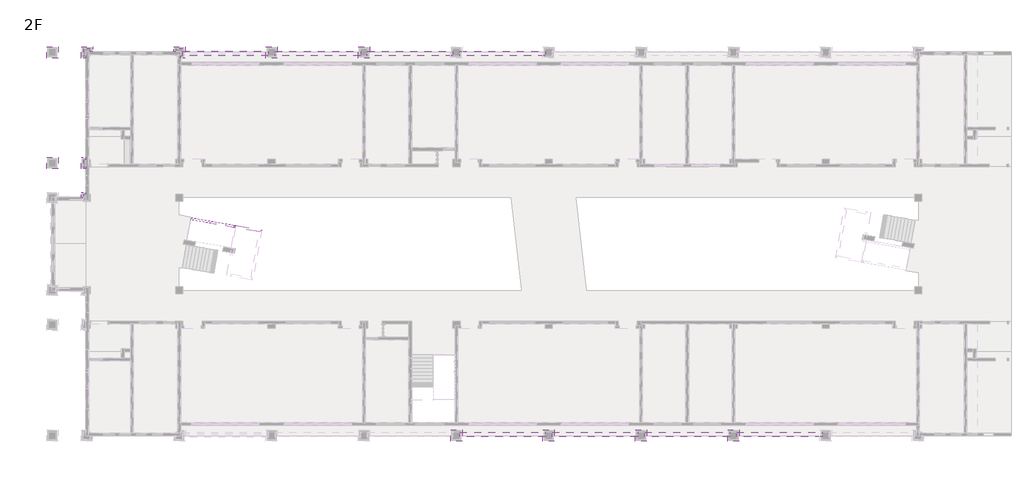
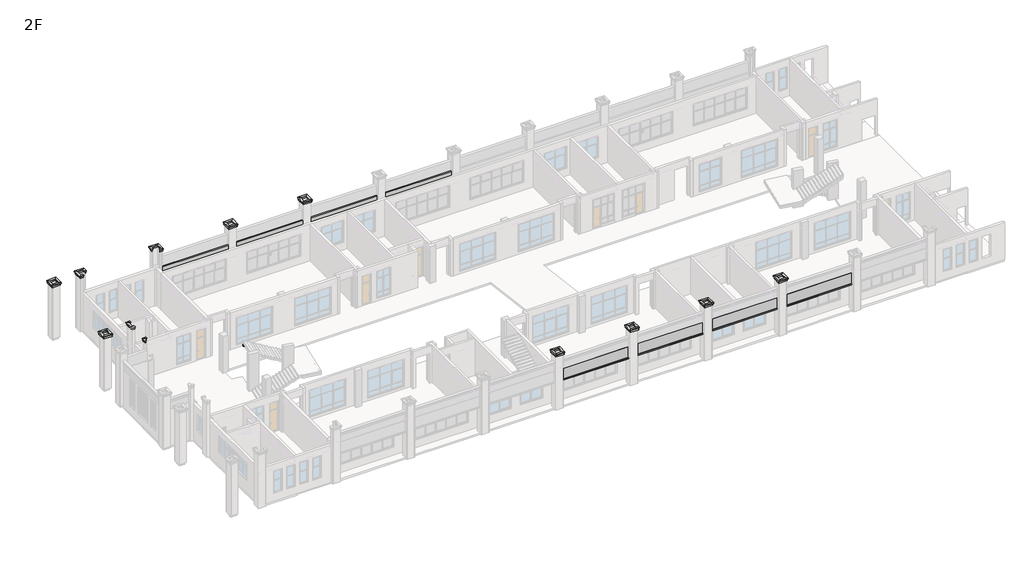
# One storey, part 14 of 16: 20 proxies, 2 members.
"""IFC4 building model written with IfcOpenShell, lengths in millimetres."""

from ifc_helpers import new_model, si_unit, origin, place, context, project, spatial, faceted_brep, transform, mapped, element, save
from components import generic_models_fbc45798, generic_models_00445dfb

model = new_model("IFC4")

# Units and contexts
model_context = context("Model", 3, world=origin())
ifc_project = project(units=[si_unit("LENGTHUNIT", "METRE", prefix="MILLI")], contexts=[model_context])

# Site, building, storey
site = spatial("IfcSite", under=ifc_project)
building = spatial("IfcBuilding", under=site)
storey = spatial("IfcBuildingStorey", under=building, Name="2F", Elevation=4200.0)

# Proxies
placement = place(None, origin())
generic_models_shape = generic_models_fbc45798(model_context)
element("IfcBuildingElementProxy", 1, Name="走廊板 : h=300mm", ObjectType="走廊板 : h=300mm", at=placement, inside=storey, context=model_context, shape_type="MappedRepresentation", body=[
    mapped(generic_models_shape, transform((35300.0, 150.0, 8400.0), x_axis=(1.0, 0.0, 0.0), y_axis=(0.0, 1.0, 0.0), z_axis=(0.0, 0.0, 1.0))),
])
element("IfcBuildingElementProxy", 2, Name="走廊板 : h=300mm", ObjectType="走廊板 : h=300mm", at=placement, inside=storey, context=model_context, shape_type="MappedRepresentation", body=[
    mapped(generic_models_shape, transform((43300.0, 150.0, 8400.0), x_axis=(1.0, 0.0, 0.0), y_axis=(0.0, 1.0, 0.0), z_axis=(0.0, 0.0, 1.0))),
])
element("IfcBuildingElementProxy", 3, Name="走廊板 : h=300mm", ObjectType="走廊板 : h=300mm", at=placement, inside=storey, context=model_context, shape_type="MappedRepresentation", body=[
    mapped(generic_models_shape, transform((51300.0, 150.0, 8400.0), x_axis=(1.0, 0.0, 0.0), y_axis=(0.0, 1.0, 0.0), z_axis=(0.0, 0.0, 1.0))),
])
element("IfcBuildingElementProxy", 4, Name="走廊板 : h=300mm", ObjectType="走廊板 : h=300mm", at=placement, inside=storey, context=model_context, shape_type="MappedRepresentation", body=[
    mapped(generic_models_shape, transform((59300.0, 150.0, 8400.0), x_axis=(1.0, 0.0, 0.0), y_axis=(0.0, 1.0, 0.0), z_axis=(0.0, 0.0, 1.0))),
])
generic_models_2_shape = generic_models_00445dfb(model_context)
element("IfcBuildingElementProxy", 5, Name="走廊板 : h=300mm", ObjectType="走廊板 : h=300mm", at=placement, inside=storey, context=model_context, shape_type="MappedRepresentation", body=[
    mapped(generic_models_2_shape, transform((11300.0, 33050.0, 8400.0), x_axis=(1.0, 0.0, 0.0), y_axis=(0.0, 1.0, 0.0), z_axis=(0.0, 0.0, 1.0))),
])
element("IfcBuildingElementProxy", 6, Name="走廊板 : h=300mm", ObjectType="走廊板 : h=300mm", at=placement, inside=storey, context=model_context, shape_type="MappedRepresentation", body=[
    mapped(generic_models_2_shape, transform((19300.0, 33050.0, 8400.0), x_axis=(1.0, 0.0, 0.0), y_axis=(0.0, 1.0, 0.0), z_axis=(0.0, 0.0, 1.0))),
])
element("IfcBuildingElementProxy", 7, Name="走廊板 : h=300mm", ObjectType="走廊板 : h=300mm", at=placement, inside=storey, context=model_context, shape_type="MappedRepresentation", body=[
    mapped(generic_models_2_shape, transform((27300.0, 33050.0, 8400.0), x_axis=(1.0, 0.0, 0.0), y_axis=(0.0, 1.0, 0.0), z_axis=(0.0, 0.0, 1.0))),
])
element("IfcBuildingElementProxy", 8, Name="走廊板 : h=300mm", ObjectType="走廊板 : h=300mm", at=placement, inside=storey, context=model_context, shape_type="MappedRepresentation", body=[
    mapped(generic_models_2_shape, transform((35300.0, 33050.0, 8400.0), x_axis=(1.0, 0.0, 0.0), y_axis=(0.0, 1.0, 0.0), z_axis=(0.0, 0.0, 1.0))),
])
element("IfcBuildingElementProxy", 9, Name="QS2", ObjectType="QS2", at=placement, inside=storey, context=model_context, shape_type="Brep", body=[
    faceted_brep([(-450.0, 32750.0, 10300.0), (-400.0, 32800.0, 10300.0), (-400.0, 32800.0, 10550.0), (-300.0, 32900.0, 10550.0), (-300.0, 32900.0, 10600.0), (-500.0, 32700.0, 10600.0), (-500.0, 32700.0, 10500.0), (-450.0, 32750.0, 10500.0), (-450.0, 33650.0, 10300.0), (-450.0, 33650.0, 10500.0), (-500.0, 33700.0, 10500.0), (-500.0, 33700.0, 10600.0), (-300.0, 33500.0, 10600.0), (-300.0, 33500.0, 10550.0), (-400.0, 33600.0, 10550.0), (-400.0, 33600.0, 10300.0)], [[[0, 1, 2, 3, 4, 5, 6, 7]], [[8, 9, 10, 11, 12, 13, 14, 15]], [[1, 0, 8, 15]], [[2, 1, 15, 14]], [[3, 2, 14, 13]], [[4, 3, 13, 12]], [[5, 4, 12, 11]], [[6, 5, 11, 10]], [[7, 6, 10, 9]], [[0, 7, 9, 8]]]),
    faceted_brep([(-450.0, 33650.0, 10300.0), (-400.0, 33600.0, 10300.0), (-400.0, 33600.0, 10550.0), (-300.0, 33500.0, 10550.0), (-300.0, 33500.0, 10600.0), (-500.0, 33700.0, 10600.0), (-500.0, 33700.0, 10500.0), (-450.0, 33650.0, 10500.0), (450.0, 33650.0, 10300.0), (450.0, 33650.0, 10500.0), (500.0, 33700.0, 10500.0), (500.0, 33700.0, 10600.0), (300.0, 33500.0, 10600.0), (300.0, 33500.0, 10550.0), (400.0, 33600.0, 10550.0), (400.0, 33600.0, 10300.0)], [[[0, 1, 2, 3, 4, 5, 6, 7]], [[8, 9, 10, 11, 12, 13, 14, 15]], [[1, 0, 8, 15]], [[2, 1, 15, 14]], [[3, 2, 14, 13]], [[4, 3, 13, 12]], [[5, 4, 12, 11]], [[6, 5, 11, 10]], [[7, 6, 10, 9]], [[0, 7, 9, 8]]]),
    faceted_brep([(450.0, 33650.0, 10300.0), (400.0, 33600.0, 10300.0), (400.0, 33600.0, 10550.0), (300.0, 33500.0, 10550.0), (300.0, 33500.0, 10600.0), (500.0, 33700.0, 10600.0), (500.0, 33700.0, 10500.0), (450.0, 33650.0, 10500.0), (450.0, 32750.0, 10300.0), (450.0, 32750.0, 10500.0), (500.0, 32700.0, 10500.0), (500.0, 32700.0, 10600.0), (300.0, 32900.0, 10600.0), (300.0, 32900.0, 10550.0), (400.0, 32800.0, 10550.0), (400.0, 32800.0, 10300.0)], [[[0, 1, 2, 3, 4, 5, 6, 7]], [[8, 9, 10, 11, 12, 13, 14, 15]], [[1, 0, 8, 15]], [[2, 1, 15, 14]], [[3, 2, 14, 13]], [[4, 3, 13, 12]], [[5, 4, 12, 11]], [[6, 5, 11, 10]], [[7, 6, 10, 9]], [[0, 7, 9, 8]]]),
    faceted_brep([(450.0, 32750.0, 10300.0), (400.0, 32800.0, 10300.0), (400.0, 32800.0, 10550.0), (300.0, 32900.0, 10550.0), (300.0, 32900.0, 10600.0), (500.0, 32700.0, 10600.0), (500.0, 32700.0, 10500.0), (450.0, 32750.0, 10500.0), (-450.0, 32750.0, 10300.0), (-450.0, 32750.0, 10500.0), (-500.0, 32700.0, 10500.0), (-500.0, 32700.0, 10600.0), (-300.0, 32900.0, 10600.0), (-300.0, 32900.0, 10550.0), (-400.0, 32800.0, 10550.0), (-400.0, 32800.0, 10300.0)], [[[0, 1, 2, 3, 4, 5, 6, 7]], [[8, 9, 10, 11, 12, 13, 14, 15]], [[1, 0, 8, 15]], [[2, 1, 15, 14]], [[3, 2, 14, 13]], [[4, 3, 13, 12]], [[5, 4, 12, 11]], [[6, 5, 11, 10]], [[7, 6, 10, 9]], [[0, 7, 9, 8]]]),
])
element("IfcBuildingElementProxy", 10, Name="QS2", ObjectType="QS2", at=placement, inside=storey, context=model_context, shape_type="Brep", body=[
    faceted_brep([(-450.0, 23150.0, 10300.0), (-400.0, 23200.0, 10300.0), (-400.0, 23200.0, 10550.0), (-300.0, 23300.0, 10550.0), (-300.0, 23300.0, 10600.0), (-500.0, 23100.0, 10600.0), (-500.0, 23100.0, 10500.0), (-450.0, 23150.0, 10500.0), (-450.0, 24050.0, 10300.0), (-450.0, 24050.0, 10500.0), (-500.0, 24100.0, 10500.0), (-500.0, 24100.0, 10600.0), (-300.0, 23900.0, 10600.0), (-300.0, 23900.0, 10550.0), (-400.0, 24000.0, 10550.0), (-400.0, 24000.0, 10300.0)], [[[0, 1, 2, 3, 4, 5, 6, 7]], [[8, 9, 10, 11, 12, 13, 14, 15]], [[1, 0, 8, 15]], [[2, 1, 15, 14]], [[3, 2, 14, 13]], [[4, 3, 13, 12]], [[5, 4, 12, 11]], [[6, 5, 11, 10]], [[7, 6, 10, 9]], [[0, 7, 9, 8]]]),
    faceted_brep([(-450.0, 24050.0, 10300.0), (-400.0, 24000.0, 10300.0), (-400.0, 24000.0, 10550.0), (-300.0, 23900.0, 10550.0), (-300.0, 23900.0, 10600.0), (-500.0, 24100.0, 10600.0), (-500.0, 24100.0, 10500.0), (-450.0, 24050.0, 10500.0), (450.0, 24050.0, 10300.0), (450.0, 24050.0, 10500.0), (500.0, 24100.0, 10500.0), (500.0, 24100.0, 10600.0), (300.0, 23900.0, 10600.0), (300.0, 23900.0, 10550.0), (400.0, 24000.0, 10550.0), (400.0, 24000.0, 10300.0)], [[[0, 1, 2, 3, 4, 5, 6, 7]], [[8, 9, 10, 11, 12, 13, 14, 15]], [[1, 0, 8, 15]], [[2, 1, 15, 14]], [[3, 2, 14, 13]], [[4, 3, 13, 12]], [[5, 4, 12, 11]], [[6, 5, 11, 10]], [[7, 6, 10, 9]], [[0, 7, 9, 8]]]),
    faceted_brep([(450.0, 24050.0, 10300.0), (400.0, 24000.0, 10300.0), (400.0, 24000.0, 10550.0), (300.0, 23900.0, 10550.0), (300.0, 23900.0, 10600.0), (500.0, 24100.0, 10600.0), (500.0, 24100.0, 10500.0), (450.0, 24050.0, 10500.0), (450.0, 23150.0, 10300.0), (450.0, 23150.0, 10500.0), (500.0, 23100.0, 10500.0), (500.0, 23100.0, 10600.0), (300.0, 23300.0, 10600.0), (300.0, 23300.0, 10550.0), (400.0, 23200.0, 10550.0), (400.0, 23200.0, 10300.0)], [[[0, 1, 2, 3, 4, 5, 6, 7]], [[8, 9, 10, 11, 12, 13, 14, 15]], [[1, 0, 8, 15]], [[2, 1, 15, 14]], [[3, 2, 14, 13]], [[4, 3, 13, 12]], [[5, 4, 12, 11]], [[6, 5, 11, 10]], [[7, 6, 10, 9]], [[0, 7, 9, 8]]]),
    faceted_brep([(450.0, 23150.0, 10300.0), (400.0, 23200.0, 10300.0), (400.0, 23200.0, 10550.0), (300.0, 23300.0, 10550.0), (300.0, 23300.0, 10600.0), (500.0, 23100.0, 10600.0), (500.0, 23100.0, 10500.0), (450.0, 23150.0, 10500.0), (-450.0, 23150.0, 10300.0), (-450.0, 23150.0, 10500.0), (-500.0, 23100.0, 10500.0), (-500.0, 23100.0, 10600.0), (-300.0, 23300.0, 10600.0), (-300.0, 23300.0, 10550.0), (-400.0, 23200.0, 10550.0), (-400.0, 23200.0, 10300.0)], [[[0, 1, 2, 3, 4, 5, 6, 7]], [[8, 9, 10, 11, 12, 13, 14, 15]], [[1, 0, 8, 15]], [[2, 1, 15, 14]], [[3, 2, 14, 13]], [[4, 3, 13, 12]], [[5, 4, 12, 11]], [[6, 5, 11, 10]], [[7, 6, 10, 9]], [[0, 7, 9, 8]]]),
])
element("IfcBuildingElementProxy", 11, Name="QS2", ObjectType="QS2", at=placement, inside=storey, context=model_context, shape_type="Brep", body=[
    faceted_brep([(3450.0, 33252.6954639, 10300.0), (3450.0, 33252.6954639, 10500.0), (3500.0, 33252.6954639, 10500.0), (3500.0, 33252.6954639, 10600.0), (3300.0, 33252.6954639, 10600.0), (3300.0, 33252.6954639, 10550.0), (3400.0, 33252.6954639, 10550.0), (3400.0, 33252.6954639, 10300.0), (3450.0, 33650.0, 10300.0), (3400.0, 33600.0, 10300.0), (3400.0, 33600.0, 10550.0), (3300.0, 33500.0, 10550.0), (3300.0, 33500.0, 10600.0), (3500.0, 33700.0, 10600.0), (3500.0, 33700.0, 10500.0), (3450.0, 33650.0, 10500.0)], [[[0, 1, 2, 3, 4, 5, 6, 7]], [[8, 9, 10, 11, 12, 13, 14, 15]], [[1, 0, 8, 15]], [[2, 1, 15, 14]], [[3, 2, 14, 13]], [[4, 3, 13, 12]], [[5, 4, 12, 11]], [[6, 5, 11, 10]], [[7, 6, 10, 9]], [[0, 7, 9, 8]]]),
    faceted_brep([(3450.0, 33650.0, 10300.0), (3450.0, 33650.0, 10500.0), (3500.0, 33700.0, 10500.0), (3500.0, 33700.0, 10600.0), (3300.0, 33500.0, 10600.0), (3300.0, 33500.0, 10550.0), (3400.0, 33600.0, 10550.0), (3400.0, 33600.0, 10300.0), (2550.0, 33650.0, 10300.0), (2600.0, 33600.0, 10300.0), (2600.0, 33600.0, 10550.0), (2700.0, 33500.0, 10550.0), (2700.0, 33500.0, 10600.0), (2500.0, 33700.0, 10600.0), (2500.0, 33700.0, 10500.0), (2550.0, 33650.0, 10500.0)], [[[0, 1, 2, 3, 4, 5, 6, 7]], [[8, 9, 10, 11, 12, 13, 14, 15]], [[1, 0, 8, 15]], [[2, 1, 15, 14]], [[3, 2, 14, 13]], [[4, 3, 13, 12]], [[5, 4, 12, 11]], [[6, 5, 11, 10]], [[7, 6, 10, 9]], [[0, 7, 9, 8]]]),
    faceted_brep([(2550.0, 33650.0, 10300.0), (2550.0, 33650.0, 10500.0), (2500.0, 33700.0, 10500.0), (2500.0, 33700.0, 10600.0), (2700.0, 33500.0, 10600.0), (2700.0, 33500.0, 10550.0), (2600.0, 33600.0, 10550.0), (2600.0, 33600.0, 10300.0), (2550.0, 32750.0, 10300.0), (2600.0, 32800.0, 10300.0), (2600.0, 32800.0, 10550.0), (2700.0, 32900.0, 10550.0), (2700.0, 32900.0, 10600.0), (2500.0, 32700.0, 10600.0), (2500.0, 32700.0, 10500.0), (2550.0, 32750.0, 10500.0)], [[[0, 1, 2, 3, 4, 5, 6, 7]], [[8, 9, 10, 11, 12, 13, 14, 15]], [[1, 0, 8, 15]], [[2, 1, 15, 14]], [[3, 2, 14, 13]], [[4, 3, 13, 12]], [[5, 4, 12, 11]], [[6, 5, 11, 10]], [[7, 6, 10, 9]], [[0, 7, 9, 8]]]),
    faceted_brep([(2550.0, 32750.0, 10300.0), (2550.0, 32750.0, 10500.0), (2500.0, 32700.0, 10500.0), (2500.0, 32700.0, 10600.0), (2700.0, 32900.0, 10600.0), (2700.0, 32900.0, 10550.0), (2600.0, 32800.0, 10550.0), (2600.0, 32800.0, 10300.0), (2897.0000002, 32750.0, 10300.0), (2897.0000002, 32800.0, 10300.0), (2897.0000002, 32800.0, 10550.0), (2897.0000002, 32900.0, 10550.0), (2897.0000002, 32900.0, 10600.0), (2897.0000002, 32700.0, 10600.0), (2897.0000002, 32700.0, 10500.0), (2897.0000002, 32750.0, 10500.0)], [[[0, 1, 2, 3, 4, 5, 6, 7]], [[8, 9, 10, 11, 12, 13, 14, 15]], [[1, 0, 8, 15]], [[2, 1, 15, 14]], [[3, 2, 14, 13]], [[4, 3, 13, 12]], [[5, 4, 12, 11]], [[6, 5, 11, 10]], [[7, 6, 10, 9]], [[0, 7, 9, 8]]]),
])
element("IfcBuildingElementProxy", 12, Name="QS2", ObjectType="QS2", at=placement, inside=storey, context=model_context, shape_type="Brep", body=[
    faceted_brep([(2897.0000002, 24050.0, 10300.0), (2897.0000002, 24050.0, 10500.0), (2897.0000002, 24100.0, 10500.0), (2897.0000002, 24100.0, 10600.0), (2897.0000002, 23900.0, 10600.0), (2897.0000002, 23900.0, 10550.0), (2897.0000002, 24000.0, 10550.0), (2897.0000002, 24000.0, 10300.0), (2550.0, 24050.0, 10300.0), (2600.0, 24000.0, 10300.0), (2600.0, 24000.0, 10550.0), (2700.0, 23900.0, 10550.0), (2700.0, 23900.0, 10600.0), (2500.0, 24100.0, 10600.0), (2500.0, 24100.0, 10500.0), (2550.0, 24050.0, 10500.0)], [[[0, 1, 2, 3, 4, 5, 6, 7]], [[8, 9, 10, 11, 12, 13, 14, 15]], [[1, 0, 8, 15]], [[2, 1, 15, 14]], [[3, 2, 14, 13]], [[4, 3, 13, 12]], [[5, 4, 12, 11]], [[6, 5, 11, 10]], [[7, 6, 10, 9]], [[0, 7, 9, 8]]]),
    faceted_brep([(2550.0, 24050.0, 10300.0), (2550.0, 24050.0, 10500.0), (2500.0, 24100.0, 10500.0), (2500.0, 24100.0, 10600.0), (2700.0, 23900.0, 10600.0), (2700.0, 23900.0, 10550.0), (2600.0, 24000.0, 10550.0), (2600.0, 24000.0, 10300.0), (2550.0, 23150.0, 10300.0), (2600.0, 23200.0, 10300.0), (2600.0, 23200.0, 10550.0), (2700.0, 23300.0, 10550.0), (2700.0, 23300.0, 10600.0), (2500.0, 23100.0, 10600.0), (2500.0, 23100.0, 10500.0), (2550.0, 23150.0, 10500.0)], [[[0, 1, 2, 3, 4, 5, 6, 7]], [[8, 9, 10, 11, 12, 13, 14, 15]], [[1, 0, 8, 15]], [[2, 1, 15, 14]], [[3, 2, 14, 13]], [[4, 3, 13, 12]], [[5, 4, 12, 11]], [[6, 5, 11, 10]], [[7, 6, 10, 9]], [[0, 7, 9, 8]]]),
    faceted_brep([(2550.0, 23150.0, 10300.0), (2550.0, 23150.0, 10500.0), (2500.0, 23100.0, 10500.0), (2500.0, 23100.0, 10600.0), (2700.0, 23300.0, 10600.0), (2700.0, 23300.0, 10550.0), (2600.0, 23200.0, 10550.0), (2600.0, 23200.0, 10300.0), (2897.0000002, 23150.0, 10300.0), (2897.0000002, 23200.0, 10300.0), (2897.0000002, 23200.0, 10550.0), (2897.0000002, 23300.0, 10550.0), (2897.0000002, 23300.0, 10600.0), (2897.0000002, 23100.0, 10600.0), (2897.0000002, 23100.0, 10500.0), (2897.0000002, 23150.0, 10500.0)], [[[0, 1, 2, 3, 4, 5, 6, 7]], [[8, 9, 10, 11, 12, 13, 14, 15]], [[1, 0, 8, 15]], [[2, 1, 15, 14]], [[3, 2, 14, 13]], [[4, 3, 13, 12]], [[5, 4, 12, 11]], [[6, 5, 11, 10]], [[7, 6, 10, 9]], [[0, 7, 9, 8]]]),
])
element("IfcBuildingElementProxy", 13, Name="QS2", ObjectType="QS2", at=placement, inside=storey, context=model_context, shape_type="Brep", body=[
    faceted_brep([(2897.0000002, 21050.0, 10300.0), (2897.0000002, 21050.0, 10500.0), (2897.0000002, 21100.0, 10500.0), (2897.0000002, 21100.0, 10600.0), (2897.0000002, 20900.0, 10600.0), (2897.0000002, 20900.0, 10550.0), (2897.0000002, 21000.0, 10550.0), (2897.0000002, 21000.0, 10300.0), (2550.0, 21050.0, 10300.0), (2600.0, 21000.0, 10300.0), (2600.0, 21000.0, 10550.0), (2700.0, 20900.0, 10550.0), (2700.0, 20900.0, 10600.0), (2500.0, 21100.0, 10600.0), (2500.0, 21100.0, 10500.0), (2550.0, 21050.0, 10500.0)], [[[0, 1, 2, 3, 4, 5, 6, 7]], [[8, 9, 10, 11, 12, 13, 14, 15]], [[1, 0, 8, 15]], [[2, 1, 15, 14]], [[3, 2, 14, 13]], [[4, 3, 13, 12]], [[5, 4, 12, 11]], [[6, 5, 11, 10]], [[7, 6, 10, 9]], [[0, 7, 9, 8]]]),
    faceted_brep([(2550.0, 21050.0, 10300.0), (2550.0, 21050.0, 10500.0), (2500.0, 21100.0, 10500.0), (2500.0, 21100.0, 10600.0), (2700.0, 20900.0, 10600.0), (2700.0, 20900.0, 10550.0), (2600.0, 21000.0, 10550.0), (2600.0, 21000.0, 10300.0), (2550.0, 20633.3045364, 10300.0), (2600.0, 20633.3045364, 10300.0), (2600.0, 20633.3045364, 10550.0), (2700.0, 20633.3045364, 10550.0), (2700.0, 20633.3045364, 10600.0), (2500.0, 20633.3045364, 10600.0), (2500.0, 20633.3045364, 10500.0), (2550.0, 20633.3045364, 10500.0)], [[[0, 1, 2, 3, 4, 5, 6, 7]], [[8, 9, 10, 11, 12, 13, 14, 15]], [[1, 0, 8, 15]], [[2, 1, 15, 14]], [[3, 2, 14, 13]], [[4, 3, 13, 12]], [[5, 4, 12, 11]], [[6, 5, 11, 10]], [[7, 6, 10, 9]], [[0, 7, 9, 8]]]),
])
element("IfcBuildingElementProxy", 14, Name="QS2", ObjectType="QS2", at=placement, inside=storey, context=model_context, shape_type="Brep", body=[
    faceted_brep([(10550.0, 33232.6954639, 10300.0), (10600.0, 33232.6954639, 10300.0), (10600.0, 33232.6954639, 10550.0), (10700.0, 33232.6954639, 10550.0), (10700.0, 33232.6954639, 10600.0), (10500.0, 33232.6954639, 10600.0), (10500.0, 33232.6954639, 10500.0), (10550.0, 33232.6954639, 10500.0), (10550.0, 33650.0, 10300.0), (10550.0, 33650.0, 10500.0), (10500.0, 33700.0, 10500.0), (10500.0, 33700.0, 10600.0), (10700.0, 33500.0, 10600.0), (10700.0, 33500.0, 10550.0), (10600.0, 33600.0, 10550.0), (10600.0, 33600.0, 10300.0)], [[[0, 1, 2, 3, 4, 5, 6, 7]], [[8, 9, 10, 11, 12, 13, 14, 15]], [[1, 0, 8, 15]], [[2, 1, 15, 14]], [[3, 2, 14, 13]], [[4, 3, 13, 12]], [[5, 4, 12, 11]], [[6, 5, 11, 10]], [[7, 6, 10, 9]], [[0, 7, 9, 8]]]),
    faceted_brep([(10550.0, 33650.0, 10300.0), (10600.0, 33600.0, 10300.0), (10600.0, 33600.0, 10550.0), (10700.0, 33500.0, 10550.0), (10700.0, 33500.0, 10600.0), (10500.0, 33700.0, 10600.0), (10500.0, 33700.0, 10500.0), (10550.0, 33650.0, 10500.0), (11450.0, 33650.0, 10300.0), (11450.0, 33650.0, 10500.0), (11500.0, 33700.0, 10500.0), (11500.0, 33700.0, 10600.0), (11300.0, 33500.0, 10600.0), (11300.0, 33500.0, 10550.0), (11400.0, 33600.0, 10550.0), (11400.0, 33600.0, 10300.0)], [[[0, 1, 2, 3, 4, 5, 6, 7]], [[8, 9, 10, 11, 12, 13, 14, 15]], [[1, 0, 8, 15]], [[2, 1, 15, 14]], [[3, 2, 14, 13]], [[4, 3, 13, 12]], [[5, 4, 12, 11]], [[6, 5, 11, 10]], [[7, 6, 10, 9]], [[0, 7, 9, 8]]]),
    faceted_brep([(11450.0, 33650.0, 10300.0), (11400.0, 33600.0, 10300.0), (11400.0, 33600.0, 10550.0), (11300.0, 33500.0, 10550.0), (11300.0, 33500.0, 10600.0), (11500.0, 33700.0, 10600.0), (11500.0, 33700.0, 10500.0), (11450.0, 33650.0, 10500.0), (11450.0, 32750.0, 10300.0), (11450.0, 32750.0, 10500.0), (11500.0, 32700.0, 10500.0), (11500.0, 32700.0, 10600.0), (11300.0, 32900.0, 10600.0), (11300.0, 32900.0, 10550.0), (11400.0, 32800.0, 10550.0), (11400.0, 32800.0, 10300.0)], [[[0, 1, 2, 3, 4, 5, 6, 7]], [[8, 9, 10, 11, 12, 13, 14, 15]], [[1, 0, 8, 15]], [[2, 1, 15, 14]], [[3, 2, 14, 13]], [[4, 3, 13, 12]], [[5, 4, 12, 11]], [[6, 5, 11, 10]], [[7, 6, 10, 9]], [[0, 7, 9, 8]]]),
    faceted_brep([(11450.0, 32750.0, 10300.0), (11400.0, 32800.0, 10300.0), (11400.0, 32800.0, 10550.0), (11300.0, 32900.0, 10550.0), (11300.0, 32900.0, 10600.0), (11500.0, 32700.0, 10600.0), (11500.0, 32700.0, 10500.0), (11450.0, 32750.0, 10500.0), (11133.0, 32750.0, 10300.0), (11133.0, 32750.0, 10500.0), (11133.0, 32700.0, 10500.0), (11133.0, 32700.0, 10600.0), (11133.0, 32900.0, 10600.0), (11133.0, 32900.0, 10550.0), (11133.0, 32800.0, 10550.0), (11133.0, 32800.0, 10300.0)], [[[0, 1, 2, 3, 4, 5, 6, 7]], [[8, 9, 10, 11, 12, 13, 14, 15]], [[1, 0, 8, 15]], [[2, 1, 15, 14]], [[3, 2, 14, 13]], [[4, 3, 13, 12]], [[5, 4, 12, 11]], [[6, 5, 11, 10]], [[7, 6, 10, 9]], [[0, 7, 9, 8]]]),
])
element("IfcBuildingElementProxy", 15, Name="QS2", ObjectType="QS2", at=placement, inside=storey, context=model_context, shape_type="Brep", body=[
    faceted_brep([(18550.0, 32749.640208, 10300.0), (18600.0, 32799.640208, 10300.0), (18600.0, 32799.640208, 10550.0), (18700.0, 32899.640208, 10550.0), (18700.0, 32899.640208, 10600.0), (18500.0, 32699.640208, 10600.0), (18500.0, 32699.640208, 10500.0), (18550.0, 32749.640208, 10500.0), (18550.0, 33650.0, 10300.0), (18550.0, 33650.0, 10500.0), (18500.0, 33700.0, 10500.0), (18500.0, 33700.0, 10600.0), (18700.0, 33500.0, 10600.0), (18700.0, 33500.0, 10550.0), (18600.0, 33600.0, 10550.0), (18600.0, 33600.0, 10300.0)], [[[0, 1, 2, 3, 4, 5, 6, 7]], [[8, 9, 10, 11, 12, 13, 14, 15]], [[1, 0, 8, 15]], [[2, 1, 15, 14]], [[3, 2, 14, 13]], [[4, 3, 13, 12]], [[5, 4, 12, 11]], [[6, 5, 11, 10]], [[7, 6, 10, 9]], [[0, 7, 9, 8]]]),
    faceted_brep([(18550.0, 33650.0, 10300.0), (18600.0, 33600.0, 10300.0), (18600.0, 33600.0, 10550.0), (18700.0, 33500.0, 10550.0), (18700.0, 33500.0, 10600.0), (18500.0, 33700.0, 10600.0), (18500.0, 33700.0, 10500.0), (18550.0, 33650.0, 10500.0), (19450.0, 33650.0, 10300.0), (19450.0, 33650.0, 10500.0), (19500.0, 33700.0, 10500.0), (19500.0, 33700.0, 10600.0), (19300.0, 33500.0, 10600.0), (19300.0, 33500.0, 10550.0), (19400.0, 33600.0, 10550.0), (19400.0, 33600.0, 10300.0)], [[[0, 1, 2, 3, 4, 5, 6, 7]], [[8, 9, 10, 11, 12, 13, 14, 15]], [[1, 0, 8, 15]], [[2, 1, 15, 14]], [[3, 2, 14, 13]], [[4, 3, 13, 12]], [[5, 4, 12, 11]], [[6, 5, 11, 10]], [[7, 6, 10, 9]], [[0, 7, 9, 8]]]),
    faceted_brep([(19450.0, 33650.0, 10300.0), (19400.0, 33600.0, 10300.0), (19400.0, 33600.0, 10550.0), (19300.0, 33500.0, 10550.0), (19300.0, 33500.0, 10600.0), (19500.0, 33700.0, 10600.0), (19500.0, 33700.0, 10500.0), (19450.0, 33650.0, 10500.0), (19450.0, 32749.640208, 10300.0), (19450.0, 32749.640208, 10500.0), (19500.0, 32699.640208, 10500.0), (19500.0, 32699.640208, 10600.0), (19300.0, 32899.640208, 10600.0), (19300.0, 32899.640208, 10550.0), (19400.0, 32799.640208, 10550.0), (19400.0, 32799.640208, 10300.0)], [[[0, 1, 2, 3, 4, 5, 6, 7]], [[8, 9, 10, 11, 12, 13, 14, 15]], [[1, 0, 8, 15]], [[2, 1, 15, 14]], [[3, 2, 14, 13]], [[4, 3, 13, 12]], [[5, 4, 12, 11]], [[6, 5, 11, 10]], [[7, 6, 10, 9]], [[0, 7, 9, 8]]]),
    faceted_brep([(19450.0, 32749.640208, 10300.0), (19400.0, 32799.640208, 10300.0), (19400.0, 32799.640208, 10550.0), (19300.0, 32899.640208, 10550.0), (19300.0, 32899.640208, 10600.0), (19500.0, 32699.640208, 10600.0), (19500.0, 32699.640208, 10500.0), (19450.0, 32749.640208, 10500.0), (18550.0, 32749.640208, 10300.0), (18550.0, 32749.640208, 10500.0), (18500.0, 32699.640208, 10500.0), (18500.0, 32699.640208, 10600.0), (18700.0, 32899.640208, 10600.0), (18700.0, 32899.640208, 10550.0), (18600.0, 32799.640208, 10550.0), (18600.0, 32799.640208, 10300.0)], [[[0, 1, 2, 3, 4, 5, 6, 7]], [[8, 9, 10, 11, 12, 13, 14, 15]], [[1, 0, 8, 15]], [[2, 1, 15, 14]], [[3, 2, 14, 13]], [[4, 3, 13, 12]], [[5, 4, 12, 11]], [[6, 5, 11, 10]], [[7, 6, 10, 9]], [[0, 7, 9, 8]]]),
])
element("IfcBuildingElementProxy", 16, Name="QS2", ObjectType="QS2", at=placement, inside=storey, context=model_context, shape_type="Brep", body=[
    faceted_brep([(26550.0, 32749.640208, 10300.0), (26600.0, 32799.640208, 10300.0), (26600.0, 32799.640208, 10550.0), (26700.0, 32899.640208, 10550.0), (26700.0, 32899.640208, 10600.0), (26500.0, 32699.640208, 10600.0), (26500.0, 32699.640208, 10500.0), (26550.0, 32749.640208, 10500.0), (26550.0, 33650.0, 10300.0), (26550.0, 33650.0, 10500.0), (26500.0, 33700.0, 10500.0), (26500.0, 33700.0, 10600.0), (26700.0, 33500.0, 10600.0), (26700.0, 33500.0, 10550.0), (26600.0, 33600.0, 10550.0), (26600.0, 33600.0, 10300.0)], [[[0, 1, 2, 3, 4, 5, 6, 7]], [[8, 9, 10, 11, 12, 13, 14, 15]], [[1, 0, 8, 15]], [[2, 1, 15, 14]], [[3, 2, 14, 13]], [[4, 3, 13, 12]], [[5, 4, 12, 11]], [[6, 5, 11, 10]], [[7, 6, 10, 9]], [[0, 7, 9, 8]]]),
    faceted_brep([(26550.0, 33650.0, 10300.0), (26600.0, 33600.0, 10300.0), (26600.0, 33600.0, 10550.0), (26700.0, 33500.0, 10550.0), (26700.0, 33500.0, 10600.0), (26500.0, 33700.0, 10600.0), (26500.0, 33700.0, 10500.0), (26550.0, 33650.0, 10500.0), (27450.0, 33650.0, 10300.0), (27450.0, 33650.0, 10500.0), (27500.0, 33700.0, 10500.0), (27500.0, 33700.0, 10600.0), (27300.0, 33500.0, 10600.0), (27300.0, 33500.0, 10550.0), (27400.0, 33600.0, 10550.0), (27400.0, 33600.0, 10300.0)], [[[0, 1, 2, 3, 4, 5, 6, 7]], [[8, 9, 10, 11, 12, 13, 14, 15]], [[1, 0, 8, 15]], [[2, 1, 15, 14]], [[3, 2, 14, 13]], [[4, 3, 13, 12]], [[5, 4, 12, 11]], [[6, 5, 11, 10]], [[7, 6, 10, 9]], [[0, 7, 9, 8]]]),
    faceted_brep([(27450.0, 33650.0, 10300.0), (27400.0, 33600.0, 10300.0), (27400.0, 33600.0, 10550.0), (27300.0, 33500.0, 10550.0), (27300.0, 33500.0, 10600.0), (27500.0, 33700.0, 10600.0), (27500.0, 33700.0, 10500.0), (27450.0, 33650.0, 10500.0), (27450.0, 32749.640208, 10300.0), (27450.0, 32749.640208, 10500.0), (27500.0, 32699.640208, 10500.0), (27500.0, 32699.640208, 10600.0), (27300.0, 32899.640208, 10600.0), (27300.0, 32899.640208, 10550.0), (27400.0, 32799.640208, 10550.0), (27400.0, 32799.640208, 10300.0)], [[[0, 1, 2, 3, 4, 5, 6, 7]], [[8, 9, 10, 11, 12, 13, 14, 15]], [[1, 0, 8, 15]], [[2, 1, 15, 14]], [[3, 2, 14, 13]], [[4, 3, 13, 12]], [[5, 4, 12, 11]], [[6, 5, 11, 10]], [[7, 6, 10, 9]], [[0, 7, 9, 8]]]),
    faceted_brep([(27450.0, 32749.640208, 10300.0), (27400.0, 32799.640208, 10300.0), (27400.0, 32799.640208, 10550.0), (27300.0, 32899.640208, 10550.0), (27300.0, 32899.640208, 10600.0), (27500.0, 32699.640208, 10600.0), (27500.0, 32699.640208, 10500.0), (27450.0, 32749.640208, 10500.0), (26550.0, 32749.640208, 10300.0), (26550.0, 32749.640208, 10500.0), (26500.0, 32699.640208, 10500.0), (26500.0, 32699.640208, 10600.0), (26700.0, 32899.640208, 10600.0), (26700.0, 32899.640208, 10550.0), (26600.0, 32799.640208, 10550.0), (26600.0, 32799.640208, 10300.0)], [[[0, 1, 2, 3, 4, 5, 6, 7]], [[8, 9, 10, 11, 12, 13, 14, 15]], [[1, 0, 8, 15]], [[2, 1, 15, 14]], [[3, 2, 14, 13]], [[4, 3, 13, 12]], [[5, 4, 12, 11]], [[6, 5, 11, 10]], [[7, 6, 10, 9]], [[0, 7, 9, 8]]]),
])
element("IfcBuildingElementProxy", 17, Name="QS2", ObjectType="QS2", at=placement, inside=storey, context=model_context, shape_type="Brep", body=[
    faceted_brep([(34550.0, 450.359792, 10300.0), (34550.0, 450.359792, 10500.0), (34500.0, 500.359792, 10500.0), (34500.0, 500.359792, 10600.0), (34700.0, 300.359792, 10600.0), (34700.0, 300.359792, 10550.0), (34600.0, 400.359792, 10550.0), (34600.0, 400.359792, 10300.0), (34550.0, -450.0, 10300.0), (34600.0, -400.0, 10300.0), (34600.0, -400.0, 10550.0), (34700.0, -300.0, 10550.0), (34700.0, -300.0, 10600.0), (34500.0, -500.0, 10600.0), (34500.0, -500.0, 10500.0), (34550.0, -450.0, 10500.0)], [[[0, 1, 2, 3, 4, 5, 6, 7]], [[8, 9, 10, 11, 12, 13, 14, 15]], [[0, 7, 9, 8]], [[7, 6, 10, 9]], [[6, 5, 11, 10]], [[5, 4, 12, 11]], [[4, 3, 13, 12]], [[3, 2, 14, 13]], [[2, 1, 15, 14]], [[1, 0, 8, 15]]]),
    faceted_brep([(34550.0, -450.0, 10300.0), (34550.0, -450.0, 10500.0), (34500.0, -500.0, 10500.0), (34500.0, -500.0, 10600.0), (34700.0, -300.0, 10600.0), (34700.0, -300.0, 10550.0), (34600.0, -400.0, 10550.0), (34600.0, -400.0, 10300.0), (35450.0, -450.0, 10300.0), (35400.0, -400.0, 10300.0), (35400.0, -400.0, 10550.0), (35300.0, -300.0, 10550.0), (35300.0, -300.0, 10600.0), (35500.0, -500.0, 10600.0), (35500.0, -500.0, 10500.0), (35450.0, -450.0, 10500.0)], [[[0, 1, 2, 3, 4, 5, 6, 7]], [[8, 9, 10, 11, 12, 13, 14, 15]], [[0, 7, 9, 8]], [[7, 6, 10, 9]], [[6, 5, 11, 10]], [[5, 4, 12, 11]], [[4, 3, 13, 12]], [[3, 2, 14, 13]], [[2, 1, 15, 14]], [[1, 0, 8, 15]]]),
    faceted_brep([(35450.0, -450.0, 10300.0), (35450.0, -450.0, 10500.0), (35500.0, -500.0, 10500.0), (35500.0, -500.0, 10600.0), (35300.0, -300.0, 10600.0), (35300.0, -300.0, 10550.0), (35400.0, -400.0, 10550.0), (35400.0, -400.0, 10300.0), (35450.0, 450.359792, 10300.0), (35400.0, 400.359792, 10300.0), (35400.0, 400.359792, 10550.0), (35300.0, 300.359792, 10550.0), (35300.0, 300.359792, 10600.0), (35500.0, 500.359792, 10600.0), (35500.0, 500.359792, 10500.0), (35450.0, 450.359792, 10500.0)], [[[0, 1, 2, 3, 4, 5, 6, 7]], [[8, 9, 10, 11, 12, 13, 14, 15]], [[0, 7, 9, 8]], [[7, 6, 10, 9]], [[6, 5, 11, 10]], [[5, 4, 12, 11]], [[4, 3, 13, 12]], [[3, 2, 14, 13]], [[2, 1, 15, 14]], [[1, 0, 8, 15]]]),
    faceted_brep([(35450.0, 450.359792, 10300.0), (35450.0, 450.359792, 10500.0), (35500.0, 500.359792, 10500.0), (35500.0, 500.359792, 10600.0), (35300.0, 300.359792, 10600.0), (35300.0, 300.359792, 10550.0), (35400.0, 400.359792, 10550.0), (35400.0, 400.359792, 10300.0), (34550.0, 450.359792, 10300.0), (34600.0, 400.359792, 10300.0), (34600.0, 400.359792, 10550.0), (34700.0, 300.359792, 10550.0), (34700.0, 300.359792, 10600.0), (34500.0, 500.359792, 10600.0), (34500.0, 500.359792, 10500.0), (34550.0, 450.359792, 10500.0)], [[[0, 1, 2, 3, 4, 5, 6, 7]], [[8, 9, 10, 11, 12, 13, 14, 15]], [[0, 7, 9, 8]], [[7, 6, 10, 9]], [[6, 5, 11, 10]], [[5, 4, 12, 11]], [[4, 3, 13, 12]], [[3, 2, 14, 13]], [[2, 1, 15, 14]], [[1, 0, 8, 15]]]),
])
element("IfcBuildingElementProxy", 18, Name="QS2", ObjectType="QS2", at=placement, inside=storey, context=model_context, shape_type="Brep", body=[
    faceted_brep([(42550.0, 450.359792, 10300.0), (42550.0, 450.359792, 10500.0), (42500.0, 500.359792, 10500.0), (42500.0, 500.359792, 10600.0), (42700.0, 300.359792, 10600.0), (42700.0, 300.359792, 10550.0), (42600.0, 400.359792, 10550.0), (42600.0, 400.359792, 10300.0), (42550.0, -450.0, 10300.0), (42600.0, -400.0, 10300.0), (42600.0, -400.0, 10550.0), (42700.0, -300.0, 10550.0), (42700.0, -300.0, 10600.0), (42500.0, -500.0, 10600.0), (42500.0, -500.0, 10500.0), (42550.0, -450.0, 10500.0)], [[[0, 1, 2, 3, 4, 5, 6, 7]], [[8, 9, 10, 11, 12, 13, 14, 15]], [[0, 7, 9, 8]], [[7, 6, 10, 9]], [[6, 5, 11, 10]], [[5, 4, 12, 11]], [[4, 3, 13, 12]], [[3, 2, 14, 13]], [[2, 1, 15, 14]], [[1, 0, 8, 15]]]),
    faceted_brep([(42550.0, -450.0, 10300.0), (42550.0, -450.0, 10500.0), (42500.0, -500.0, 10500.0), (42500.0, -500.0, 10600.0), (42700.0, -300.0, 10600.0), (42700.0, -300.0, 10550.0), (42600.0, -400.0, 10550.0), (42600.0, -400.0, 10300.0), (43450.0, -450.0, 10300.0), (43400.0, -400.0, 10300.0), (43400.0, -400.0, 10550.0), (43300.0, -300.0, 10550.0), (43300.0, -300.0, 10600.0), (43500.0, -500.0, 10600.0), (43500.0, -500.0, 10500.0), (43450.0, -450.0, 10500.0)], [[[0, 1, 2, 3, 4, 5, 6, 7]], [[8, 9, 10, 11, 12, 13, 14, 15]], [[0, 7, 9, 8]], [[7, 6, 10, 9]], [[6, 5, 11, 10]], [[5, 4, 12, 11]], [[4, 3, 13, 12]], [[3, 2, 14, 13]], [[2, 1, 15, 14]], [[1, 0, 8, 15]]]),
    faceted_brep([(43450.0, -450.0, 10300.0), (43450.0, -450.0, 10500.0), (43500.0, -500.0, 10500.0), (43500.0, -500.0, 10600.0), (43300.0, -300.0, 10600.0), (43300.0, -300.0, 10550.0), (43400.0, -400.0, 10550.0), (43400.0, -400.0, 10300.0), (43450.0, 450.359792, 10300.0), (43400.0, 400.359792, 10300.0), (43400.0, 400.359792, 10550.0), (43300.0, 300.359792, 10550.0), (43300.0, 300.359792, 10600.0), (43500.0, 500.359792, 10600.0), (43500.0, 500.359792, 10500.0), (43450.0, 450.359792, 10500.0)], [[[0, 1, 2, 3, 4, 5, 6, 7]], [[8, 9, 10, 11, 12, 13, 14, 15]], [[0, 7, 9, 8]], [[7, 6, 10, 9]], [[6, 5, 11, 10]], [[5, 4, 12, 11]], [[4, 3, 13, 12]], [[3, 2, 14, 13]], [[2, 1, 15, 14]], [[1, 0, 8, 15]]]),
    faceted_brep([(43450.0, 450.359792, 10300.0), (43450.0, 450.359792, 10500.0), (43500.0, 500.359792, 10500.0), (43500.0, 500.359792, 10600.0), (43300.0, 300.359792, 10600.0), (43300.0, 300.359792, 10550.0), (43400.0, 400.359792, 10550.0), (43400.0, 400.359792, 10300.0), (42550.0, 450.359792, 10300.0), (42600.0, 400.359792, 10300.0), (42600.0, 400.359792, 10550.0), (42700.0, 300.359792, 10550.0), (42700.0, 300.359792, 10600.0), (42500.0, 500.359792, 10600.0), (42500.0, 500.359792, 10500.0), (42550.0, 450.359792, 10500.0)], [[[0, 1, 2, 3, 4, 5, 6, 7]], [[8, 9, 10, 11, 12, 13, 14, 15]], [[0, 7, 9, 8]], [[7, 6, 10, 9]], [[6, 5, 11, 10]], [[5, 4, 12, 11]], [[4, 3, 13, 12]], [[3, 2, 14, 13]], [[2, 1, 15, 14]], [[1, 0, 8, 15]]]),
])
element("IfcBuildingElementProxy", 19, Name="QS2", ObjectType="QS2", at=placement, inside=storey, context=model_context, shape_type="Brep", body=[
    faceted_brep([(50550.0, 450.359792, 10300.0), (50550.0, 450.359792, 10500.0), (50500.0, 500.359792, 10500.0), (50500.0, 500.359792, 10600.0), (50700.0, 300.359792, 10600.0), (50700.0, 300.359792, 10550.0), (50600.0, 400.359792, 10550.0), (50600.0, 400.359792, 10300.0), (50550.0, -450.0, 10300.0), (50600.0, -400.0, 10300.0), (50600.0, -400.0, 10550.0), (50700.0, -300.0, 10550.0), (50700.0, -300.0, 10600.0), (50500.0, -500.0, 10600.0), (50500.0, -500.0, 10500.0), (50550.0, -450.0, 10500.0)], [[[0, 1, 2, 3, 4, 5, 6, 7]], [[8, 9, 10, 11, 12, 13, 14, 15]], [[0, 7, 9, 8]], [[7, 6, 10, 9]], [[6, 5, 11, 10]], [[5, 4, 12, 11]], [[4, 3, 13, 12]], [[3, 2, 14, 13]], [[2, 1, 15, 14]], [[1, 0, 8, 15]]]),
    faceted_brep([(50550.0, -450.0, 10300.0), (50550.0, -450.0, 10500.0), (50500.0, -500.0, 10500.0), (50500.0, -500.0, 10600.0), (50700.0, -300.0, 10600.0), (50700.0, -300.0, 10550.0), (50600.0, -400.0, 10550.0), (50600.0, -400.0, 10300.0), (51450.0, -450.0, 10300.0), (51400.0, -400.0, 10300.0), (51400.0, -400.0, 10550.0), (51300.0, -300.0, 10550.0), (51300.0, -300.0, 10600.0), (51500.0, -500.0, 10600.0), (51500.0, -500.0, 10500.0), (51450.0, -450.0, 10500.0)], [[[0, 1, 2, 3, 4, 5, 6, 7]], [[8, 9, 10, 11, 12, 13, 14, 15]], [[0, 7, 9, 8]], [[7, 6, 10, 9]], [[6, 5, 11, 10]], [[5, 4, 12, 11]], [[4, 3, 13, 12]], [[3, 2, 14, 13]], [[2, 1, 15, 14]], [[1, 0, 8, 15]]]),
    faceted_brep([(51450.0, -450.0, 10300.0), (51450.0, -450.0, 10500.0), (51500.0, -500.0, 10500.0), (51500.0, -500.0, 10600.0), (51300.0, -300.0, 10600.0), (51300.0, -300.0, 10550.0), (51400.0, -400.0, 10550.0), (51400.0, -400.0, 10300.0), (51450.0, 450.359792, 10300.0), (51400.0, 400.359792, 10300.0), (51400.0, 400.359792, 10550.0), (51300.0, 300.359792, 10550.0), (51300.0, 300.359792, 10600.0), (51500.0, 500.359792, 10600.0), (51500.0, 500.359792, 10500.0), (51450.0, 450.359792, 10500.0)], [[[0, 1, 2, 3, 4, 5, 6, 7]], [[8, 9, 10, 11, 12, 13, 14, 15]], [[0, 7, 9, 8]], [[7, 6, 10, 9]], [[6, 5, 11, 10]], [[5, 4, 12, 11]], [[4, 3, 13, 12]], [[3, 2, 14, 13]], [[2, 1, 15, 14]], [[1, 0, 8, 15]]]),
    faceted_brep([(51450.0, 450.359792, 10300.0), (51450.0, 450.359792, 10500.0), (51500.0, 500.359792, 10500.0), (51500.0, 500.359792, 10600.0), (51300.0, 300.359792, 10600.0), (51300.0, 300.359792, 10550.0), (51400.0, 400.359792, 10550.0), (51400.0, 400.359792, 10300.0), (50550.0, 450.359792, 10300.0), (50600.0, 400.359792, 10300.0), (50600.0, 400.359792, 10550.0), (50700.0, 300.359792, 10550.0), (50700.0, 300.359792, 10600.0), (50500.0, 500.359792, 10600.0), (50500.0, 500.359792, 10500.0), (50550.0, 450.359792, 10500.0)], [[[0, 1, 2, 3, 4, 5, 6, 7]], [[8, 9, 10, 11, 12, 13, 14, 15]], [[0, 7, 9, 8]], [[7, 6, 10, 9]], [[6, 5, 11, 10]], [[5, 4, 12, 11]], [[4, 3, 13, 12]], [[3, 2, 14, 13]], [[2, 1, 15, 14]], [[1, 0, 8, 15]]]),
])
element("IfcBuildingElementProxy", 20, Name="QS2", ObjectType="QS2", at=placement, inside=storey, context=model_context, shape_type="Brep", body=[
    faceted_brep([(58550.0, 450.359792, 10300.0), (58550.0, 450.359792, 10500.0), (58500.0, 500.359792, 10500.0), (58500.0, 500.359792, 10600.0), (58700.0, 300.359792, 10600.0), (58700.0, 300.359792, 10550.0), (58600.0, 400.359792, 10550.0), (58600.0, 400.359792, 10300.0), (58550.0, -450.0, 10300.0), (58600.0, -400.0, 10300.0), (58600.0, -400.0, 10550.0), (58700.0, -300.0, 10550.0), (58700.0, -300.0, 10600.0), (58500.0, -500.0, 10600.0), (58500.0, -500.0, 10500.0), (58550.0, -450.0, 10500.0)], [[[0, 1, 2, 3, 4, 5, 6, 7]], [[8, 9, 10, 11, 12, 13, 14, 15]], [[0, 7, 9, 8]], [[7, 6, 10, 9]], [[6, 5, 11, 10]], [[5, 4, 12, 11]], [[4, 3, 13, 12]], [[3, 2, 14, 13]], [[2, 1, 15, 14]], [[1, 0, 8, 15]]]),
    faceted_brep([(58550.0, -450.0, 10300.0), (58550.0, -450.0, 10500.0), (58500.0, -500.0, 10500.0), (58500.0, -500.0, 10600.0), (58700.0, -300.0, 10600.0), (58700.0, -300.0, 10550.0), (58600.0, -400.0, 10550.0), (58600.0, -400.0, 10300.0), (59450.0, -450.0, 10300.0), (59400.0, -400.0, 10300.0), (59400.0, -400.0, 10550.0), (59300.0, -300.0, 10550.0), (59300.0, -300.0, 10600.0), (59500.0, -500.0, 10600.0), (59500.0, -500.0, 10500.0), (59450.0, -450.0, 10500.0)], [[[0, 1, 2, 3, 4, 5, 6, 7]], [[8, 9, 10, 11, 12, 13, 14, 15]], [[0, 7, 9, 8]], [[7, 6, 10, 9]], [[6, 5, 11, 10]], [[5, 4, 12, 11]], [[4, 3, 13, 12]], [[3, 2, 14, 13]], [[2, 1, 15, 14]], [[1, 0, 8, 15]]]),
    faceted_brep([(59450.0, -450.0, 10300.0), (59450.0, -450.0, 10500.0), (59500.0, -500.0, 10500.0), (59500.0, -500.0, 10600.0), (59300.0, -300.0, 10600.0), (59300.0, -300.0, 10550.0), (59400.0, -400.0, 10550.0), (59400.0, -400.0, 10300.0), (59450.0, 450.359792, 10300.0), (59400.0, 400.359792, 10300.0), (59400.0, 400.359792, 10550.0), (59300.0, 300.359792, 10550.0), (59300.0, 300.359792, 10600.0), (59500.0, 500.359792, 10600.0), (59500.0, 500.359792, 10500.0), (59450.0, 450.359792, 10500.0)], [[[0, 1, 2, 3, 4, 5, 6, 7]], [[8, 9, 10, 11, 12, 13, 14, 15]], [[0, 7, 9, 8]], [[7, 6, 10, 9]], [[6, 5, 11, 10]], [[5, 4, 12, 11]], [[4, 3, 13, 12]], [[3, 2, 14, 13]], [[2, 1, 15, 14]], [[1, 0, 8, 15]]]),
    faceted_brep([(59450.0, 450.359792, 10300.0), (59450.0, 450.359792, 10500.0), (59500.0, 500.359792, 10500.0), (59500.0, 500.359792, 10600.0), (59300.0, 300.359792, 10600.0), (59300.0, 300.359792, 10550.0), (59400.0, 400.359792, 10550.0), (59400.0, 400.359792, 10300.0), (58550.0, 450.359792, 10300.0), (58600.0, 400.359792, 10300.0), (58600.0, 400.359792, 10550.0), (58700.0, 300.359792, 10550.0), (58700.0, 300.359792, 10600.0), (58500.0, 500.359792, 10600.0), (58500.0, 500.359792, 10500.0), (58550.0, 450.359792, 10500.0)], [[[0, 1, 2, 3, 4, 5, 6, 7]], [[8, 9, 10, 11, 12, 13, 14, 15]], [[0, 7, 9, 8]], [[7, 6, 10, 9]], [[6, 5, 11, 10]], [[5, 4, 12, 11]], [[4, 3, 13, 12]], [[3, 2, 14, 13]], [[2, 1, 15, 14]], [[1, 0, 8, 15]]]),
])

# Members
element("IfcMember", 21, at=placement, inside=storey, context=model_context, shape_type="Brep", body=[
    faceted_brep([(12006.9751577, 18682.5879198, 8205.0), (12041.7047932, 18879.5494704, 8205.0), (12041.7047932, 18879.5494704, 7813.6881039), (12006.9751577, 18682.5879198, 7813.6881039), (12272.873251, 18635.7029118, 8070.0), (12568.3155769, 18583.6084585, 7920.0), (12863.7579028, 18531.5140052, 7770.0), (13159.2002287, 18479.4195519, 7620.0), (13454.6425546, 18427.3250986, 7470.0), (13750.0848805, 18375.2306453, 7320.0), (14045.5272064, 18323.136192, 7170.0), (14340.9695323, 18271.0417387, 7020.0), (14636.4118583, 18218.9472854, 6870.0), (14931.8541842, 18166.8528321, 6720.0), (15227.2965101, 18114.7583788, 6570.0), (15522.738836, 18062.6639255, 6420.0), (15818.1811619, 18010.5694722, 6270.0), (15852.9107974, 18207.5310228, 6270.0), (15557.4684715, 18259.6254761, 6420.0), (15262.0261456, 18311.7199294, 6570.0), (14966.5838197, 18363.8143827, 6720.0), (14671.1414938, 18415.908836, 6870.0), (14375.6991679, 18468.0032893, 7020.0), (14080.256842, 18520.0977426, 7170.0), (13784.8145161, 18572.1921959, 7320.0), (13489.3721902, 18624.2866492, 7470.0), (13193.9298643, 18676.3811025, 7620.0), (12898.4875384, 18728.4755558, 7770.0), (12603.0452125, 18780.5700091, 7920.0), (12307.6028866, 18832.6644624, 8070.0), (15736.8126108, 18024.9169431, 5920.0), (12307.6028866, 18832.6644624, 7678.6881039), (12603.0452125, 18780.5700091, 7528.6881039), (12898.4875384, 18728.4755558, 7378.6881039), (13193.9298643, 18676.3811025, 7228.6881039), (13489.3721902, 18624.2866492, 7078.6881039), (13784.8145161, 18572.1921959, 6928.6881039), (14080.256842, 18520.0977426, 6778.6881039), (14375.6991679, 18468.0032893, 6628.6881039), (14671.1414938, 18415.908836, 6478.6881039), (14966.5838197, 18363.8143827, 6328.6881039), (15262.0261456, 18311.7199294, 6178.6881039), (15557.4684715, 18259.6254761, 6028.6881039), (15771.5422463, 18221.8784937, 5920.0)], [[[0, 1, 2, 3]], [[1, 0, 4, 5, 6, 7, 8, 9, 10, 11, 12, 13, 14, 15, 16, 17, 18, 19, 20, 21, 22, 23, 24, 25, 26, 27, 28, 29]], [[0, 3, 30, 16, 15, 14, 13, 12, 11, 10, 9, 8, 7, 6, 5, 4]], [[3, 2, 31, 32, 33, 34, 35, 36, 37, 38, 39, 40, 41, 42, 43, 30]], [[2, 1, 29, 28, 27, 26, 25, 24, 23, 22, 21, 20, 19, 18, 17, 43, 42, 41, 40, 39, 38, 37, 36, 35, 34, 33, 32, 31]], [[17, 16, 30, 43]]]),
])
element("IfcMember", 22, at=placement, inside=storey, context=model_context, shape_type="Brep", body=[
    faceted_brep([(15818.1811619, 18010.5694722, 6270.0), (17915.8216758, 17640.6988537, 6270.0), (18147.5128619, 17802.9307688, 6270.0), (15882.45503, 18202.3215775, 6270.0), (15852.9107974, 18207.5310228, 6270.0), (15736.8126108, 18024.9169431, 5920.0), (17915.8216758, 17640.6988537, 5920.0), (15771.5422463, 18221.8784937, 5920.0), (15852.9107974, 18207.5310228, 5920.0), (15882.45503, 18202.3215775, 5920.0), (18147.5128619, 17802.9307688, 5920.0)], [[[0, 1, 2, 3, 4]], [[1, 0, 5, 6]], [[6, 5, 7, 8, 9, 10]], [[2, 10, 9, 8, 7, 4, 3]], [[2, 1, 6, 10]], [[0, 4, 7, 5]]]),
])

save(model, "model.ifc")
